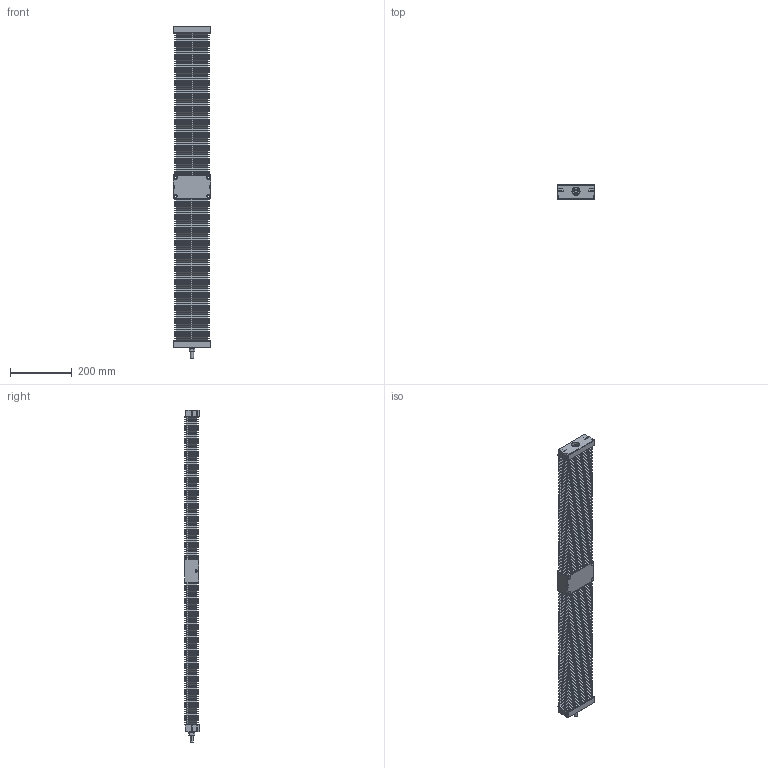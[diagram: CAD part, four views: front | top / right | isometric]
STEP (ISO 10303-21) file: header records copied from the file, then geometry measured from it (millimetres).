
FILE_DESCRIPTION (( 'STEP AP214' ), '1' );
FILE_NAME ('TKC1610B-600H0C-Ä£×é.step', '2025-08-25T08:39:03', ( '' ), ( '' ), 'SwSTEP 2.0', 'SolidWorks 2024', '' );
FILE_SCHEMA (( 'AUTOMOTIVE_DESIGN' ));
Length unit declared in the file: millimetre
Products named in the file (4): TKC16-600-03; TKC16-600-01; TKC16-02; TKC1610B-600H0C-模组
Assembly tree (4 placements, depth 2):
  TKC1610B-600H0C-模组
    TKC16-02
    TKC16-600-01
    TKC16-600-03  x2
Bounding box: 122 x 48 x 1072.5 mm (x, y, z)
Volume: 2940962.9 mm3; surface area: 1047230.8 mm2
Topology: 10 solids, 14 shells, 2712 faces, 5941 edges, 3296 vertices
Faces by surface type: plane 2144, cylinder 493, cone 36, torus 28, bspline 11
Entity records: 62223 total; most frequent: CARTESIAN_POINT 23798, ORIENTED_EDGE 8018, DIRECTION 7444, EDGE_CURVE 4009, LINE 2924, VECTOR 2924, VERTEX_POINT 2336, AXIS2_PLACEMENT_3D 2260
